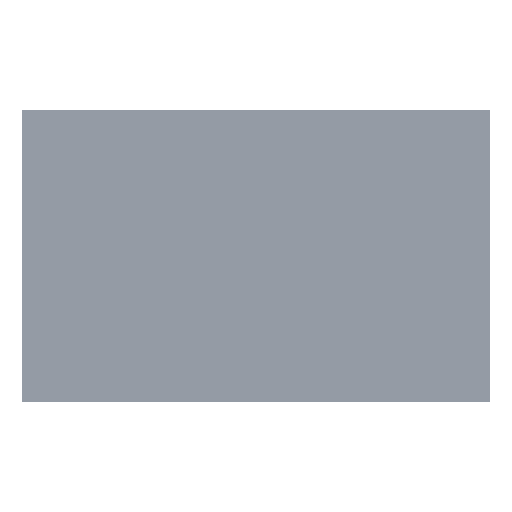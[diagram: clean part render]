
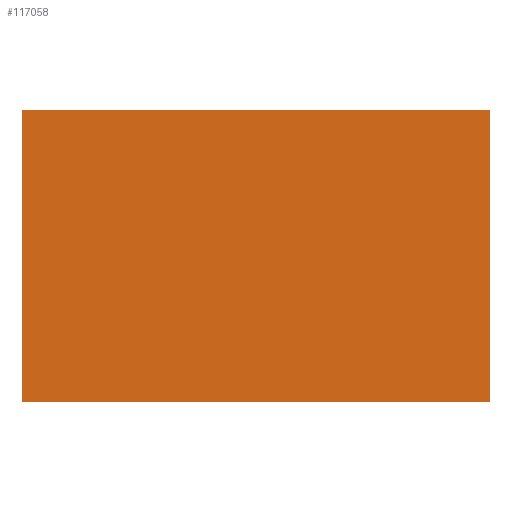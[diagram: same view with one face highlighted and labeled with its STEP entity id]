
A CAD part, front view. The second image highlights one B-rep face of the part: STEP entity #117058.
In plain terms, the highlighted planar face has unit normal (0, -1, 0) as drawn and (0, 0, -1) by its records, which use the part's own axes.
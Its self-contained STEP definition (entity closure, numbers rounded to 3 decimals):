
#14167=FACE_OUTER_BOUND('',#20812,.T.);
#20812=EDGE_LOOP('',(#106228,#106229,#106230,#106231));
#33601=LINE('',#209771,#46377);
#33604=LINE('',#209776,#46380);
#33606=LINE('',#209780,#46382);
#33608=LINE('',#209783,#46384);
#46377=VECTOR('',#151997,10.);
#46380=VECTOR('',#152002,10.);
#46382=VECTOR('',#152006,10.);
#46384=VECTOR('',#152010,10.);
#57109=VERTEX_POINT('',#209769);
#57110=VERTEX_POINT('',#209770);
#57111=VERTEX_POINT('',#209775);
#57112=VERTEX_POINT('',#209779);
#73519=EDGE_CURVE('',#57109,#57110,#33601,.T.);
#73522=EDGE_CURVE('',#57111,#57109,#33604,.T.);
#73524=EDGE_CURVE('',#57112,#57111,#33606,.T.);
#73526=EDGE_CURVE('',#57110,#57112,#33608,.T.);
#106228=ORIENTED_EDGE('',*,*,#73526,.F.);
#106229=ORIENTED_EDGE('',*,*,#73519,.F.);
#106230=ORIENTED_EDGE('',*,*,#73522,.F.);
#106231=ORIENTED_EDGE('',*,*,#73524,.F.);
#111323=PLANE('',#125217);
#117058=ADVANCED_FACE('',(#14167),#111323,.F.);
#125217=AXIS2_PLACEMENT_3D('',#209785,#152013,#152014);
#151997=DIRECTION('',(1.,0.,0.));
#152002=DIRECTION('',(0.,-1.,0.));
#152006=DIRECTION('',(-1.,0.,0.));
#152010=DIRECTION('',(0.,1.,0.));
#152013=DIRECTION('center_axis',(0.,0.,1.));
#152014=DIRECTION('ref_axis',(1.,0.,0.));
#209769=CARTESIAN_POINT('',(-600.,-375.,0.));
#209770=CARTESIAN_POINT('',(600.,-375.,0.));
#209771=CARTESIAN_POINT('',(-600.,-375.,0.));
#209775=CARTESIAN_POINT('',(-600.,375.,0.));
#209776=CARTESIAN_POINT('',(-600.,375.,0.));
#209779=CARTESIAN_POINT('',(600.,375.,0.));
#209780=CARTESIAN_POINT('',(600.,375.,0.));
#209783=CARTESIAN_POINT('',(600.,-375.,0.));
#209785=CARTESIAN_POINT('Origin',(0.,0.,
0.));
